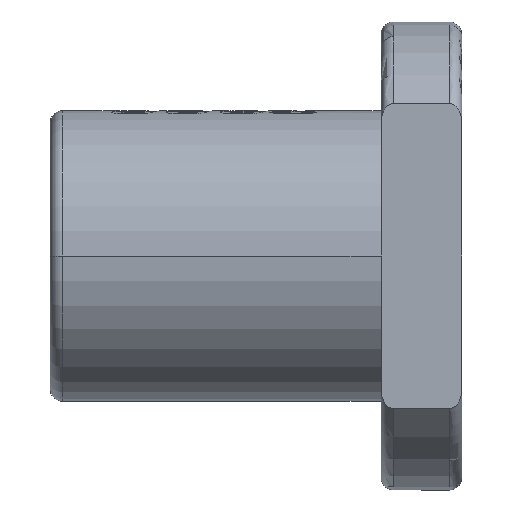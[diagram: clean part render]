
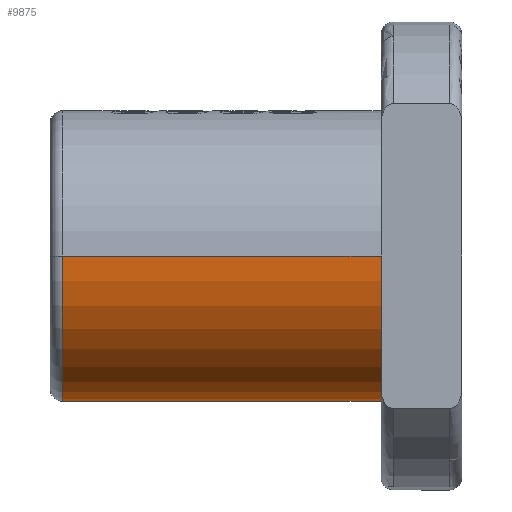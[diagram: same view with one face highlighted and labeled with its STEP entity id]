
A CAD part, front view. The second image highlights one B-rep face of the part: STEP entity #9875.
In plain terms, the highlighted cylindrical face has radius 18 mm (diameter 36 mm), a partial arc.
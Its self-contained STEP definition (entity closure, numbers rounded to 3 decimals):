
#230 = CARTESIAN_POINT ( 'NONE',  ( -64.5, -18., 0. ) ) ;
#316 = VECTOR ( 'NONE', #6741, 1000. ) ;
#469 = CARTESIAN_POINT ( 'NONE',  ( -25., -18., 0. ) ) ;
#861 = CIRCLE ( 'NONE', #5556, 18. ) ;
#2391 = VECTOR ( 'NONE', #7234, 1000. ) ;
#2476 = DIRECTION ( 'NONE',  ( 1., 0., 0. ) ) ;
#2526 = CARTESIAN_POINT ( 'NONE',  ( -64.5, 0., 0. ) ) ;
#2725 = CARTESIAN_POINT ( 'NONE',  ( -64.5, 18., 0. ) ) ;
#2757 = ORIENTED_EDGE ( 'NONE', *, *, #3212, .F. ) ;
#3148 = ORIENTED_EDGE ( 'NONE', *, *, #9744, .T. ) ;
#3212 = EDGE_CURVE ( 'NONE', #3687, #9370, #4298, .T. ) ;
#3340 = EDGE_CURVE ( 'NONE', #5231, #8596, #4667, .T. ) ;
#3490 = EDGE_LOOP ( 'NONE', ( #2757, #3148, #9190, #3934 ) ) ;
#3559 = FACE_OUTER_BOUND ( 'NONE', #3490, .T. ) ;
#3651 = AXIS2_PLACEMENT_3D ( 'NONE', #7648, #9398, #8514 ) ;
#3687 = VERTEX_POINT ( 'NONE', #230 ) ;
#3934 = ORIENTED_EDGE ( 'NONE', *, *, #7736, .T. ) ;
#4298 = LINE ( 'NONE', #6910, #316 ) ;
#4667 = LINE ( 'NONE', #7180, #2391 ) ;
#4694 = AXIS2_PLACEMENT_3D ( 'NONE', #2526, #2476, #8306 ) ;
#5231 = VERTEX_POINT ( 'NONE', #2725 ) ;
#5556 = AXIS2_PLACEMENT_3D ( 'NONE', #8260, #9180, #6632 ) ;
#6632 = DIRECTION ( 'NONE',  ( 0., 1., 0. ) ) ;
#6741 = DIRECTION ( 'NONE',  ( 1., 0., 0. ) ) ;
#6910 = CARTESIAN_POINT ( 'NONE',  ( -64.5, -18., 0. ) ) ;
#7180 = CARTESIAN_POINT ( 'NONE',  ( -64.5, 18., 0. ) ) ;
#7234 = DIRECTION ( 'NONE',  ( 1., 0., 0. ) ) ;
#7648 = CARTESIAN_POINT ( 'NONE',  ( -64.5, 0., 0. ) ) ;
#7736 = EDGE_CURVE ( 'NONE', #8596, #9370, #861, .T. ) ;
#7809 = CYLINDRICAL_SURFACE ( 'NONE', #3651, 18. ) ;
#8260 = CARTESIAN_POINT ( 'NONE',  ( -25., 0., 0. ) ) ;
#8306 = DIRECTION ( 'NONE',  ( 0., 1., 0. ) ) ;
#8514 = DIRECTION ( 'NONE',  ( 0., 1., 0. ) ) ;
#8596 = VERTEX_POINT ( 'NONE', #8613 ) ;
#8613 = CARTESIAN_POINT ( 'NONE',  ( -25., 18., 0. ) ) ;
#9180 = DIRECTION ( 'NONE',  ( -1., 0., 0. ) ) ;
#9190 = ORIENTED_EDGE ( 'NONE', *, *, #3340, .T. ) ;
#9370 = VERTEX_POINT ( 'NONE', #469 ) ;
#9394 = CIRCLE ( 'NONE', #4694, 18. ) ;
#9398 = DIRECTION ( 'NONE',  ( 1., 0., 0. ) ) ;
#9744 = EDGE_CURVE ( 'NONE', #3687, #5231, #9394, .T. ) ;
#9875 = ADVANCED_FACE ( 'NONE', ( #3559 ), #7809, .T. ) ;
